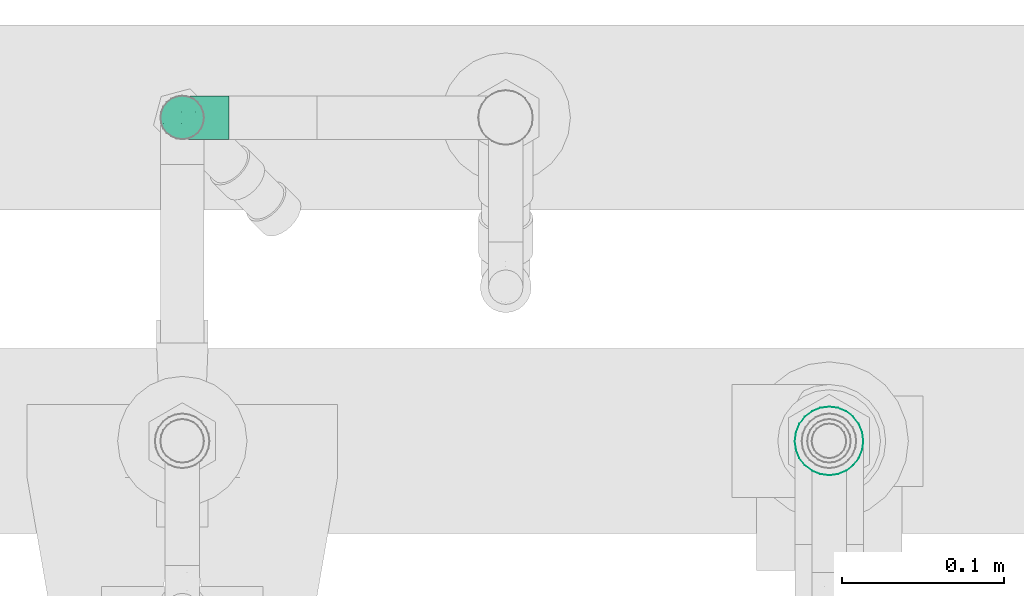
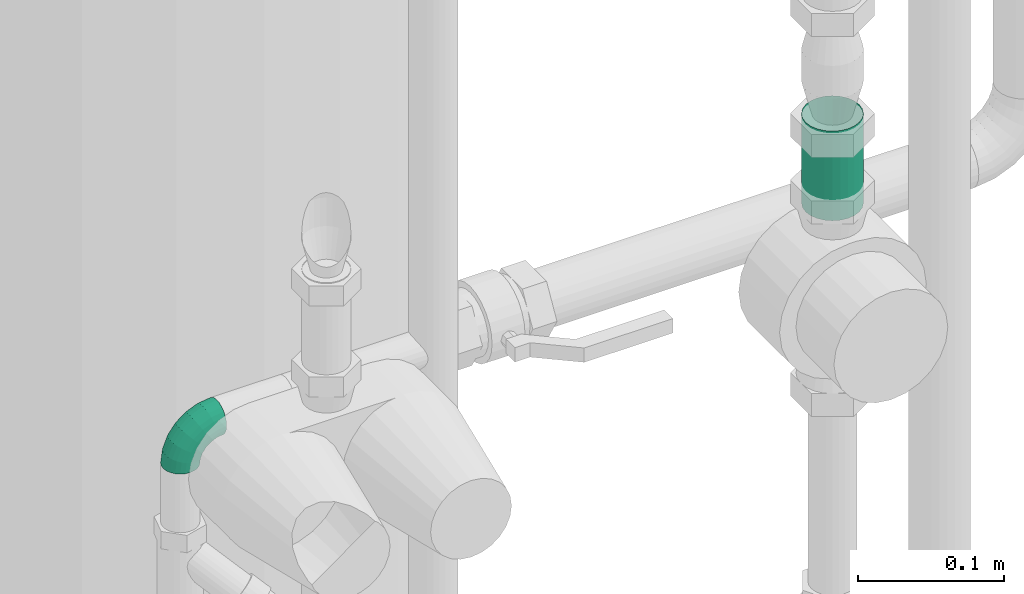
# One storey, part 344 of 374: 2 flow segments.
"""IFC2X3 building model written with IfcOpenShell, lengths in metres."""

from ifc_helpers import new_model, si_unit, direction, origin, place, context, subcontext, project, spatial, open_shell, surface_model, source, transform, mapped, element, save


model = new_model("IFC2X3")

# Units and contexts
model_context = context("Model", 3, precision=1e-05, world=origin(), true_north=direction((-0.4480736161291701, 0.8939966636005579)))
body_context = subcontext(model_context, "Body", "Model", "MODEL_VIEW")
ifc_project = project(units=[si_unit("LENGTHUNIT", "METRE"), si_unit("AREAUNIT", "SQUARE_METRE"), si_unit("VOLUMEUNIT", "CUBIC_METRE"), si_unit("PLANEANGLEUNIT", "RADIAN"), si_unit("THERMODYNAMICTEMPERATUREUNIT", "KELVIN"), si_unit("MASSUNIT", "GRAM", prefix="KILO"), si_unit("TIMEUNIT", "SECOND")], contexts=[model_context])

# Site, building, storey
site_placement = place(None, origin())
site = spatial("IfcSite", under=ifc_project, at=site_placement, Name="Site 1", CompositionType="ELEMENT")
building_placement = place(site_placement, origin())
building = spatial("IfcBuilding", under=site, at=building_placement, Name="Undefined", CompositionType="ELEMENT")
storey_placement = place(building_placement, origin())
storey = spatial("IfcBuildingStorey", under=building, at=storey_placement, Name="Rez de chauss\x8ee", CompositionType="ELEMENT", Elevation=0.0)

# Flow segments
shared_shape_1 = source(origin(), body_context, "Body", "SurfaceModel", [
    surface_model("IfcFaceBasedSurfaceModel", [(0.011081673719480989, 0.0, 0.0), (0.011021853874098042, 0.0035106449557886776, -8.8817842e-16), (5.981984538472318e-05, 0.003510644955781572, 0.0), (0.0, 0.0, 0.0), (-0.01052869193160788, 0.003877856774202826, -0.002813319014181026), (-0.010704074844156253, 0.00037121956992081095, -0.002844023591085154), (-0.02002209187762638, 0.0045872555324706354, -0.008248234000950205), (-0.020301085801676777, 0.001088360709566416, -0.00833825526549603), (-0.027773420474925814, 0.005590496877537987, -0.01593436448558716), (-0.028137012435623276, 0.002102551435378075, -0.01610827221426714), (-0.03325443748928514, 0.006819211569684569, -0.02534791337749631), (-0.03367784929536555, 0.003344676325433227, -0.025624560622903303), (-0.03609162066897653, 0.008189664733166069, -0.03584736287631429), (-0.03654599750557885, 0.004730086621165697, -0.036238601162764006), (0.01084647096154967, 0.006899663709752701, -0.000901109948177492), (0.00023520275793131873, 0.006899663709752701, -0.000901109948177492), (-0.010014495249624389, 0.007255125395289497, -0.003624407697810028), (-0.019204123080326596, 0.007941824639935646, -0.008885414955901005), (-0.02670742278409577, 0.008912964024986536, -0.016325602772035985), (-0.032013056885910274, 0.010102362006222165, -0.02543793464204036), (-0.03475945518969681, 0.011428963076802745, -0.03560142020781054), (0.010567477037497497, 0.00993610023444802, -0.0026419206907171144), (0.0005141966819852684, 0.009936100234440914, -0.0026419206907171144), (-0.009196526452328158, 0.010272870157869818, -0.005222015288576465), (-0.01790292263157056, 0.010923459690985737, -0.010206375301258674), (-0.025011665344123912, 0.011843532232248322, -0.017255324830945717), (-0.03003830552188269, 0.012970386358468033, -0.025888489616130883), (-0.032640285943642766, 0.014227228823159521, -0.03551753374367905), (0.01020388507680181, 0.012413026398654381, -0.005103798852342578), (0.0008777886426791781, 0.012413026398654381, -0.005103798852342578), (-0.008130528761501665, 0.012725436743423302, -0.007497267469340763), (-0.01620716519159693, 0.013328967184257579, -0.012121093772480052), (-0.022801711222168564, 0.014182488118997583, -0.018660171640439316), (-0.02746475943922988, 0.015227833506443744, -0.02666887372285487), (-0.029878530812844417, 0.01639376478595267, -0.03560142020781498), (0.009780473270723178, 0.014161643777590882, -0.0081189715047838), (0.001301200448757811, 0.014161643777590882, -0.0081189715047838), (-0.006889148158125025, 0.014445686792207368, -0.01029510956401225), (-0.014232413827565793, 0.014994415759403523, -0.014499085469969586), (-0.020228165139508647, 0.01577043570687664, -0.020444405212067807), (-0.024467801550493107, 0.016720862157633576, -0.027725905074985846), (-0.026662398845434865, 0.017780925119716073, -0.035847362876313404), (0.009326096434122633, 0.015062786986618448, -0.011481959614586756), (0.0017555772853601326, 0.015062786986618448, -0.011481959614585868), (-0.005556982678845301, 0.015316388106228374, -0.013424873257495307), (-0.01211324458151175, 0.015806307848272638, -0.017178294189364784), (-0.017466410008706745, 0.016499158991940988, -0.02248643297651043), (-0.02125166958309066, 0.01734772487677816, -0.02898754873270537), (-0.023211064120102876, 0.01829417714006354, -0.03623860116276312), (0.008871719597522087, 0.015055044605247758, -0.01496358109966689), (0.0022099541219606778, 0.015055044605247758, -0.014963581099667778), (-0.004224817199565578, 0.015278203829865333, -0.01667327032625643), (-0.009994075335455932, 0.015709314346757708, -0.01997613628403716), (-0.014704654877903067, 0.01631899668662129, -0.024647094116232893), (-0.01803553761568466, 0.017065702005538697, -0.03036782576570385), (-0.019759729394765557, 0.017898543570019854, -0.036748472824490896), (0.008448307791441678, 0.014138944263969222, -0.018326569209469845), (0.0026333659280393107, 0.014138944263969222, -0.018326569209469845), (-0.002983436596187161, 0.014333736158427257, -0.019818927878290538), (-0.008019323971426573, 0.014710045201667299, -0.022701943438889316), (-0.012131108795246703, 0.015242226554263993, -0.02677914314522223), (-0.01503857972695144, 0.01589401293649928, -0.03177267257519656), (-0.016543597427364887, 0.01662098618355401, -0.03734223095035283), (0.008084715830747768, 0.012376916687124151, -0.021341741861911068), (0.002996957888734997, 0.012376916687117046, -0.021341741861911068), (-0.0019174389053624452, 0.012547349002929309, -0.022647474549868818), (-0.00632356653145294, 0.012876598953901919, -0.025169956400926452), (-0.009921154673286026, 0.013342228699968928, -0.028737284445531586), (-0.012465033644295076, 0.013912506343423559, -0.033106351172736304), (-0.013781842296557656, 0.01454856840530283, -0.03797941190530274), (0.007805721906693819, 0.009889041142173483, -0.02380362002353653), (0.00327595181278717, 0.009889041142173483, -0.02380362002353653), (-0.001099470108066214, 0.010040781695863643, -0.024966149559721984), (-0.005022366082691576, 0.010333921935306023, -0.027211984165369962), (-0.008225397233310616, 0.010748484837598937, -0.030388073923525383), (-0.010490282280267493, 0.01125621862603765, -0.034277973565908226), (-0.011662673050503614, 0.01182252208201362, -0.03861659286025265), (0.007630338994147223, 0.0068448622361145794, -0.025544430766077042), (0.003451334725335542, 0.0068448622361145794, -0.025544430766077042), (-0.0005852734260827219, 0.006984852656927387, -0.02661693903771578), (-0.004204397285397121, 0.0072552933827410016, -0.02868886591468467), (-0.007159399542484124, 0.007637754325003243, -0.03161901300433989), (-0.009248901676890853, 0.008106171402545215, -0.03520769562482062), (-0.010330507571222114, 0.008628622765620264, -0.03921035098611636), (0.0075705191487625, 0.0034518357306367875, -0.026445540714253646), (0.003511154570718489, 0.0034518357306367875, -0.026445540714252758), (-0.0004098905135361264, 0.0035878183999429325, -0.027487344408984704), (-0.003925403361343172, 0.0038505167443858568, -0.02949995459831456), (-0.006795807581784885, 0.0042220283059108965, -0.03234621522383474), (-0.008825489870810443, 0.004677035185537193, -0.03583215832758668), (-0.009876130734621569, 0.0051845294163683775, -0.03972022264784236), (0.007630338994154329, -5.880922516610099e-05, -0.026445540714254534), (0.0034513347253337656, -5.880922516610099e-05, -0.026445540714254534), (-0.0005852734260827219, 8.118119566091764e-05, -0.027518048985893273), (-0.004204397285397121, 0.000351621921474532, -0.02958997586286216), (-0.007159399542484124, 0.0007340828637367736, -0.03252012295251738), (-0.009248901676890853, 0.0012024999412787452, -0.036108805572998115), (-0.010330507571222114, 0.0017249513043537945, -0.04011146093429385), (0.007805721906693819, -0.0034478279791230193, -0.02554443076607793), (0.00327595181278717, -0.0034478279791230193, -0.02554443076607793), (-0.001099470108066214, -0.0032960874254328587, -0.026706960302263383), (-0.005022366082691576, -0.003002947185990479, -0.02895279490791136), (-0.008225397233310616, -0.0025883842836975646, -0.03212888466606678), (-0.010490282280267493, -0.002080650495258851, -0.036018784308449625), (-0.011662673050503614, -0.0015143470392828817, -0.04035740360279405), (0.008084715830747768, -0.006484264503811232, -0.023803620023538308), (0.002996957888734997, -0.006484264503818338, -0.023803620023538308), (-0.0019174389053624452, -0.006313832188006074, -0.025109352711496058), (-0.00632356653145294, -0.0059845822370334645, -0.027631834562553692), (-0.009921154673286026, -0.005518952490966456, -0.031199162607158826), (-0.012465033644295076, -0.004948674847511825, -0.035568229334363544), (-0.013781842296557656, -0.0043126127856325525, -0.04044129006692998), (0.008448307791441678, -0.008961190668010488, -0.021341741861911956), (0.0026333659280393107, -0.008961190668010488, -0.021341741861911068), (-0.002983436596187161, -0.008766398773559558, -0.02283410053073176), (-0.008019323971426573, -0.008390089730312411, -0.025717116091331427), (-0.012131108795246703, -0.007857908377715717, -0.02979431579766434), (-0.01503857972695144, -0.00720612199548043, -0.03478784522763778), (-0.016543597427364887, -0.0064791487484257, -0.04035740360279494), (0.008871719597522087, -0.01070980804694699, -0.018326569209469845), (0.0022099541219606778, -0.01070980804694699, -0.018326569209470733), (-0.004224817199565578, -0.010486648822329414, -0.020036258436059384), (-0.009994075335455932, -0.01005553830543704, -0.023339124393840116), (-0.014704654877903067, -0.009445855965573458, -0.02801008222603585), (-0.01803553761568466, -0.00869915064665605, -0.033730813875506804), (-0.019759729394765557, -0.007866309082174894, -0.04011146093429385), (0.009326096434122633, -0.011610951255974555, -0.014963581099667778), (0.0017555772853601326, -0.011610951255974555, -0.014963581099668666), (-0.005556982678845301, -0.01135735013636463, -0.016906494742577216), (-0.01211324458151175, -0.010867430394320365, -0.020659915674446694), (-0.017466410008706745, -0.010174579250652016, -0.025968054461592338), (-0.02125166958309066, -0.009326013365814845, -0.03246917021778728), (-0.023211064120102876, -0.008379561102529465, -0.039720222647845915), (0.009780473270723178, -0.01160320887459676, -0.011481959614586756), (0.001301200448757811, -0.011603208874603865, -0.011481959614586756), (-0.006889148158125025, -0.011319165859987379, -0.013658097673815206), (-0.014232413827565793, -0.010770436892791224, -0.01786207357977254), (-0.020228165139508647, -0.009994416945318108, -0.023807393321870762), (-0.024467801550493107, -0.009043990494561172, -0.0310888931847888), (-0.026662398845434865, -0.007983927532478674, -0.03921035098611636), (0.01020388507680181, -0.010687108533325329, -0.008118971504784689), (0.0008777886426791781, -0.010687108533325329, -0.008118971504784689), (-0.008130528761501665, -0.010374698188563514, -0.010512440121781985), (-0.01620716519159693, -0.009771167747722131, -0.015136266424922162), (-0.022801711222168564, -0.008917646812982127, -0.021675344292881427), (-0.02746475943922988, -0.007872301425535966, -0.02968404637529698), (-0.029878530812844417, -0.006706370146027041, -0.038616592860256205), (0.010567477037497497, -0.008925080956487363, -0.0051037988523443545), (0.0005141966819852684, -0.008925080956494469, -0.0051037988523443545), (-0.009196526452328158, -0.008588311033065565, -0.007683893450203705), (-0.01790292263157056, -0.007937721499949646, -0.012668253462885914), (-0.025011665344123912, -0.007017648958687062, -0.019717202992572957), (-0.03003830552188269, -0.00589079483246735, -0.028350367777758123), (-0.032640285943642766, -0.004633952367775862, -0.03797941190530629), (0.01084647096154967, -0.0064372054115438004, -0.002641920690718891), (0.00023520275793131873, -0.0064372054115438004, -0.002641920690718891), (-0.010014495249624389, -0.006081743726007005, -0.005365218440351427), (-0.019204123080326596, -0.005395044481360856, -0.010626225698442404), (-0.02670742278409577, -0.004423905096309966, -0.018066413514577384), (-0.032013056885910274, -0.0032345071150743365, -0.02717874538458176), (-0.03475945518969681, -0.0019079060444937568, -0.03734223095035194), (0.011021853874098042, -0.003393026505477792, -0.0009011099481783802), (5.981984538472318e-05, -0.0033930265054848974, -0.000901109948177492), (-0.01052869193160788, -0.0030258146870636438, -0.003714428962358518), (-0.02002209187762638, -0.002316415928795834, -0.009149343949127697), (-0.027773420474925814, -0.0013131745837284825, -0.016835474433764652), (-0.033254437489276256, -8.445989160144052e-05, -0.026249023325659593), (-0.03609162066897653, 0.0012859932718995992, -0.036748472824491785)], [open_shell([[[0, 1, 2, 3]], [[3, 2, 4, 5]], [[5, 4, 6, 7]], [[7, 6, 8, 9]], [[9, 8, 10, 11]], [[11, 10, 12, 13]], [[1, 14, 15, 2]], [[2, 15, 16, 4]], [[4, 16, 17, 6]], [[6, 17, 18, 8]], [[8, 18, 19, 10]], [[10, 19, 20, 12]], [[14, 21, 22, 15]], [[15, 22, 23, 16]], [[16, 23, 24, 17]], [[17, 24, 25, 18]], [[18, 25, 26, 19]], [[19, 26, 27, 20]], [[21, 28, 29, 22]], [[22, 29, 30, 23]], [[23, 30, 31, 24]], [[24, 31, 32, 25]], [[25, 32, 33, 26]], [[26, 33, 34, 27]], [[28, 35, 36, 29]], [[29, 36, 37, 30]], [[30, 37, 38, 31]], [[31, 38, 39, 32]], [[32, 39, 40, 33]], [[33, 40, 41, 34]], [[35, 42, 43, 36]], [[36, 43, 44, 37]], [[37, 44, 45, 38]], [[38, 45, 46, 39]], [[39, 46, 47, 40]], [[40, 47, 48, 41]], [[42, 49, 50, 43]], [[43, 50, 51, 44]], [[44, 51, 52, 45]], [[45, 52, 53, 46]], [[46, 53, 54, 47]], [[47, 54, 55, 48]], [[49, 56, 57, 50]], [[50, 57, 58, 51]], [[51, 58, 59, 52]], [[52, 59, 60, 53]], [[53, 60, 61, 54]], [[54, 61, 62, 55]], [[56, 63, 64, 57]], [[57, 64, 65, 58]], [[58, 65, 66, 59]], [[59, 66, 67, 60]], [[60, 67, 68, 61]], [[61, 68, 69, 62]], [[63, 70, 71, 64]], [[64, 71, 72, 65]], [[65, 72, 73, 66]], [[66, 73, 74, 67]], [[67, 74, 75, 68]], [[68, 75, 76, 69]], [[70, 77, 78, 71]], [[71, 78, 79, 72]], [[72, 79, 80, 73]], [[73, 80, 81, 74]], [[74, 81, 82, 75]], [[75, 82, 83, 76]], [[77, 84, 85, 78]], [[78, 85, 86, 79]], [[79, 86, 87, 80]], [[80, 87, 88, 81]], [[81, 88, 89, 82]], [[82, 89, 90, 83]], [[84, 91, 92, 85]], [[85, 92, 93, 86]], [[86, 93, 94, 87]], [[87, 94, 95, 88]], [[88, 95, 96, 89]], [[89, 96, 97, 90]], [[91, 98, 99, 92]], [[92, 99, 100, 93]], [[93, 100, 101, 94]], [[94, 101, 102, 95]], [[95, 102, 103, 96]], [[96, 103, 104, 97]], [[98, 105, 106, 99]], [[99, 106, 107, 100]], [[100, 107, 108, 101]], [[101, 108, 109, 102]], [[102, 109, 110, 103]], [[103, 110, 111, 104]], [[105, 112, 113, 106]], [[106, 113, 114, 107]], [[107, 114, 115, 108]], [[108, 115, 116, 109]], [[109, 116, 117, 110]], [[110, 117, 118, 111]], [[112, 119, 120, 113]], [[113, 120, 121, 114]], [[114, 121, 122, 115]], [[115, 122, 123, 116]], [[116, 123, 124, 117]], [[117, 124, 125, 118]], [[119, 126, 127, 120]], [[120, 127, 128, 121]], [[121, 128, 129, 122]], [[122, 129, 130, 123]], [[123, 130, 131, 124]], [[124, 131, 132, 125]], [[126, 133, 134, 127]], [[127, 134, 135, 128]], [[128, 135, 136, 129]], [[129, 136, 137, 130]], [[130, 137, 138, 131]], [[131, 138, 139, 132]], [[133, 140, 141, 134]], [[134, 141, 142, 135]], [[135, 142, 143, 136]], [[136, 143, 144, 137]], [[137, 144, 145, 138]], [[138, 145, 146, 139]], [[140, 147, 148, 141]], [[141, 148, 149, 142]], [[142, 149, 150, 143]], [[143, 150, 151, 144]], [[144, 151, 152, 145]], [[145, 152, 153, 146]], [[147, 154, 155, 148]], [[148, 155, 156, 149]], [[149, 156, 157, 150]], [[150, 157, 158, 151]], [[151, 158, 159, 152]], [[152, 159, 160, 153]], [[154, 161, 162, 155]], [[155, 162, 163, 156]], [[156, 163, 164, 157]], [[157, 164, 165, 158]], [[158, 165, 166, 159]], [[159, 166, 167, 160]], [[161, 0, 3, 162]], [[162, 3, 5, 163]], [[163, 5, 7, 164]], [[164, 7, 9, 165]], [[165, 9, 11, 166]], [[166, 11, 13, 167]]])]),
])
flow_segment_1_placement = place(storey_placement, origin())
element("IfcFlowSegment", 1, at=flow_segment_1_placement, inside=storey, Name="Tube coudé", ObjectType="Tube coudé", context=body_context, shape_type="MappedRepresentation", body=[
    mapped(shared_shape_1, transform((53.275575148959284, 10.918037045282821, 1.0135603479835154), x_axis=(0.9914448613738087, 0.0, 0.13052619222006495), y_axis=(0.016893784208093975, 0.991588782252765, -0.1283210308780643), z_axis=(-0.12942830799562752, 0.12942830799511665, 0.9831056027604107))),
])
shared_shape_2 = source(origin(), body_context, "Body", "SurfaceModel", [
    surface_model("IfcFaceBasedSurfaceModel", [(0.0, 0.005534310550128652, 0.0), (0.0, 0.0, 0.0), (0.07484752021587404, 0.0, 0.0), (0.07484752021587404, 0.00553431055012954, 7.105427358e-15), (0.0, -0.00534573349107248, -0.0014323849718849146), (0.07484752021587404, -0.005345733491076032, -0.0014323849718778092), (0.0, -0.010138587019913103, -0.004199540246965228), (0.07484752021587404, -0.010138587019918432, -0.004199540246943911), (0.0, -0.01405193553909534, -0.008112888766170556), (0.07484752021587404, -0.014051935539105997, -0.008112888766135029), (0.0, -0.016819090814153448, -0.012905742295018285), (0.07484752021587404, -0.016819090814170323, -0.012905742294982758), (0.0, -0.018251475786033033, -0.018251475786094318), (0.07484752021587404, -0.018251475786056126, -0.018251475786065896), (0.0, -0.0182514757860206, -0.02378578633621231), (0.07484752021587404, -0.018251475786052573, -0.02378578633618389), (0.0, -0.01681909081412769, -0.029131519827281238), (0.07484752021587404, -0.016819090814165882, -0.029131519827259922), (0.0, -0.014051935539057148, -0.03392437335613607), (0.07484752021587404, -0.01405193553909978, -0.033924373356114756), (0.0, -0.010138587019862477, -0.037837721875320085), (0.07484752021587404, -0.010138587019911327, -0.03783772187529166), (0.0, -0.005345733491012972, -0.040604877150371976), (0.07484752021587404, -0.00534573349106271, -0.040604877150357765), (0.0, 6.4837024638e-14, -0.042037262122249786), (0.07484752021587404, 1.1546319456e-14, -0.04203726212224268), (0.0, 0.005534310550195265, -0.04203726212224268), (0.07484752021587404, 0.005534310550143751, -0.042037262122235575), (0.0, 0.010880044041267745, -0.04060487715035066), (0.07484752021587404, 0.010880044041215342, -0.040604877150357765), (0.0, 0.01567289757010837, -0.03783772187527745), (0.07484752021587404, 0.015672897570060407, -0.03783772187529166), (0.0, 0.019586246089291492, -0.033924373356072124), (0.07484752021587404, 0.01958624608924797, -0.033924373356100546), (0.0, 0.0223534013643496, -0.029131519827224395), (0.07484752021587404, 0.022353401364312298, -0.029131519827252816), (0.0, 0.02378578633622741, -0.023785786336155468), (0.07484752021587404, 0.023785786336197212, -0.02378578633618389), (0.0, 0.023785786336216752, -0.01825147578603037), (0.07484752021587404, 0.023785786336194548, -0.018251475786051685), (0.0, 0.022353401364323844, -0.012905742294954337), (0.07484752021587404, 0.022353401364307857, -0.012905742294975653), (0.0, 0.019586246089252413, -0.008112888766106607), (0.07484752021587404, 0.019586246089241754, -0.008112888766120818), (0.0, 0.015672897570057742, -0.004199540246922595), (0.07484752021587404, 0.015672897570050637, -0.004199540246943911), (0.0, 0.010880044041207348, -0.0014323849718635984), (0.07484752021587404, 0.01088004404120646, -0.0014323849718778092)], [open_shell([[[0, 1, 2, 3]], [[1, 4, 5, 2]], [[4, 6, 7, 5]], [[6, 8, 9, 7]], [[8, 10, 11, 9]], [[10, 12, 13, 11]], [[12, 14, 15, 13]], [[14, 16, 17, 15]], [[16, 18, 19, 17]], [[18, 20, 21, 19]], [[20, 22, 23, 21]], [[22, 24, 25, 23]], [[24, 26, 27, 25]], [[26, 28, 29, 27]], [[28, 30, 31, 29]], [[30, 32, 33, 31]], [[32, 34, 35, 33]], [[34, 36, 37, 35]], [[36, 38, 39, 37]], [[38, 40, 41, 39]], [[40, 42, 43, 41]], [[42, 44, 45, 43]], [[44, 46, 47, 45]], [[46, 0, 3, 47]]])]),
])
flow_segment_2_placement = place(storey_placement, origin())
element("IfcFlowSegment", 2, at=flow_segment_2_placement, inside=storey, Name="Tube acier d'après DIN 2448", ObjectType="Tube acier d'après DIN 2448", context=body_context, shape_type="MappedRepresentation", body=[
    mapped(shared_shape_2, transform((53.67803964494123, 10.723524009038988, 1.1709), x_axis=(0.0, 0.0, 1.0), y_axis=(0.13052619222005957, -0.9914448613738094, 0.0), z_axis=(0.9914448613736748, 0.13052619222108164, 0.0))),
])

save(model, "model.ifc")
